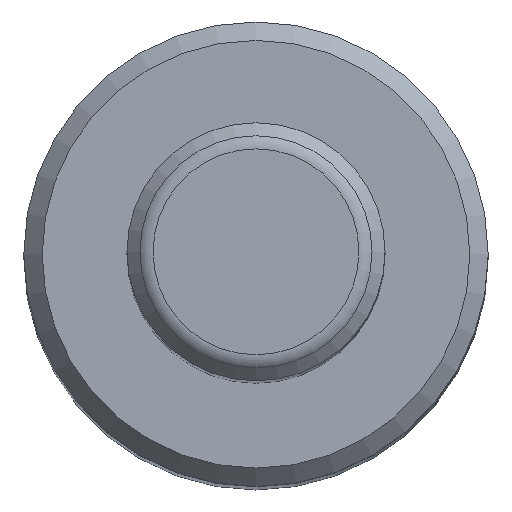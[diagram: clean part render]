
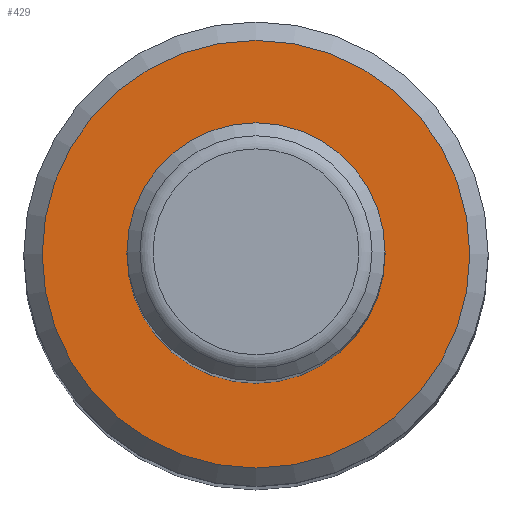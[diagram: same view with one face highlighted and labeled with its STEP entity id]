
A CAD part, top view. The second image highlights one B-rep face of the part: STEP entity #429.
In plain terms, the highlighted planar face has unit normal (0, 0, 1).
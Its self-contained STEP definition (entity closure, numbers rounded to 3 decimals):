
#409 = VERTEX_POINT('',#410);
#410 = CARTESIAN_POINT('',(11.6,0.,109.));
#418 = EDGE_CURVE('',#409,#409,#419,.T.);
#419 = CIRCLE('',#420,11.6);
#420 = AXIS2_PLACEMENT_3D('',#421,#422,#423);
#421 = CARTESIAN_POINT('',(0.,0.,109.));
#422 = DIRECTION('',(0.,0.,1.));
#423 = DIRECTION('',(1.,0.,0.));
#429 = ADVANCED_FACE('',(#430),#433,.T.);
#430 = FACE_BOUND('',#431,.T.);
#431 = EDGE_LOOP('',(#432));
#432 = ORIENTED_EDGE('',*,*,#418,.T.);
#433 = PLANE('',#434);
#434 = AXIS2_PLACEMENT_3D('',#435,#436,#437);
#435 = CARTESIAN_POINT('',(0.,0.,109.));
#436 = DIRECTION('',(0.,0.,1.));
#437 = DIRECTION('',(1.,0.,0.));
